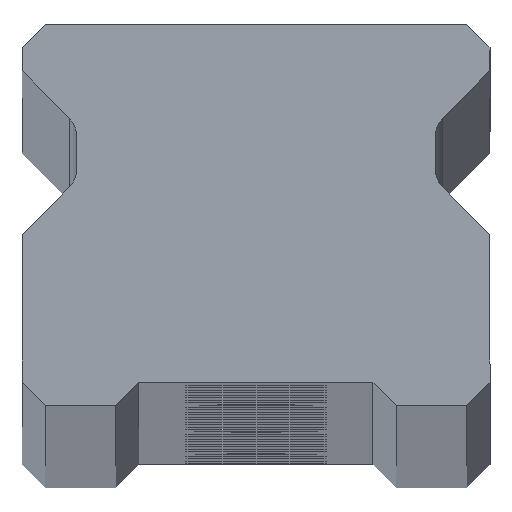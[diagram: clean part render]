
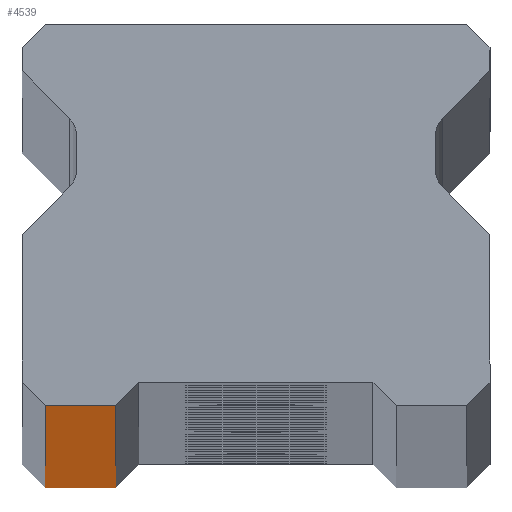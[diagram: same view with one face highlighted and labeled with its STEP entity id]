
A CAD part, top view. The second image highlights one B-rep face of the part: STEP entity #4539.
In plain terms, the highlighted planar face has unit normal (0, -1, 0).
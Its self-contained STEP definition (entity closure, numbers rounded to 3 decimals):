
#302 = EDGE_CURVE ( 'NONE', #631, #396, #1612, .T. ) ;
#337 = ORIENTED_EDGE ( 'NONE', *, *, #4455, .F. ) ;
#396 = VERTEX_POINT ( 'NONE', #2152 ) ;
#461 = CARTESIAN_POINT ( 'NONE',  ( -9., 0., 1010. ) ) ;
#576 = CARTESIAN_POINT ( 'NONE',  ( -9., 0., -1010. ) ) ;
#631 = VERTEX_POINT ( 'NONE', #2335 ) ;
#645 = DIRECTION ( 'NONE',  ( -1., 0., 0. ) ) ;
#1065 = VECTOR ( 'NONE', #3385, 1000. ) ;
#1174 = EDGE_CURVE ( 'NONE', #2552, #4598, #5441, .T. ) ;
#1321 = CARTESIAN_POINT ( 'NONE',  ( 10., 0., -1010. ) ) ;
#1376 = EDGE_LOOP ( 'NONE', ( #3619, #2681, #337, #3501 ) ) ;
#1612 = LINE ( 'NONE', #3544, #2583 ) ;
#2152 = CARTESIAN_POINT ( 'NONE',  ( -6., 0., 1010. ) ) ;
#2230 = LINE ( 'NONE', #4780, #1065 ) ;
#2335 = CARTESIAN_POINT ( 'NONE',  ( -6., 0., -1010. ) ) ;
#2440 = CARTESIAN_POINT ( 'NONE',  ( -9., 0., 1010. ) ) ;
#2529 = PLANE ( 'NONE',  #2703 ) ;
#2552 = VERTEX_POINT ( 'NONE', #461 ) ;
#2583 = VECTOR ( 'NONE', #4081, 1000. ) ;
#2681 = ORIENTED_EDGE ( 'NONE', *, *, #302, .T. ) ;
#2693 = LINE ( 'NONE', #1321, #2842 ) ;
#2703 = AXIS2_PLACEMENT_3D ( 'NONE', #4865, #5742, #645 ) ;
#2842 = VECTOR ( 'NONE', #3712, 1000. ) ;
#2983 = DIRECTION ( 'NONE',  ( 0., 0., -1. ) ) ;
#3013 = VECTOR ( 'NONE', #2983, 1000. ) ;
#3385 = DIRECTION ( 'NONE',  ( 1., 0., 0. ) ) ;
#3501 = ORIENTED_EDGE ( 'NONE', *, *, #1174, .T. ) ;
#3544 = CARTESIAN_POINT ( 'NONE',  ( -6., 0., -1010. ) ) ;
#3619 = ORIENTED_EDGE ( 'NONE', *, *, #4416, .T. ) ;
#3712 = DIRECTION ( 'NONE',  ( 1., 0., 0. ) ) ;
#4081 = DIRECTION ( 'NONE',  ( 0., 0., 1. ) ) ;
#4416 = EDGE_CURVE ( 'NONE', #4598, #631, #2693, .T. ) ;
#4455 = EDGE_CURVE ( 'NONE', #2552, #396, #2230, .T. ) ;
#4539 = ADVANCED_FACE ( 'NONE', ( #5627 ), #2529, .F. ) ;
#4598 = VERTEX_POINT ( 'NONE', #576 ) ;
#4780 = CARTESIAN_POINT ( 'NONE',  ( 10., 0., 1010. ) ) ;
#4865 = CARTESIAN_POINT ( 'NONE',  ( 10., 0., 1010. ) ) ;
#5441 = LINE ( 'NONE', #2440, #3013 ) ;
#5627 = FACE_OUTER_BOUND ( 'NONE', #1376, .T. ) ;
#5742 = DIRECTION ( 'NONE',  ( 0., 1., 0. ) ) ;
